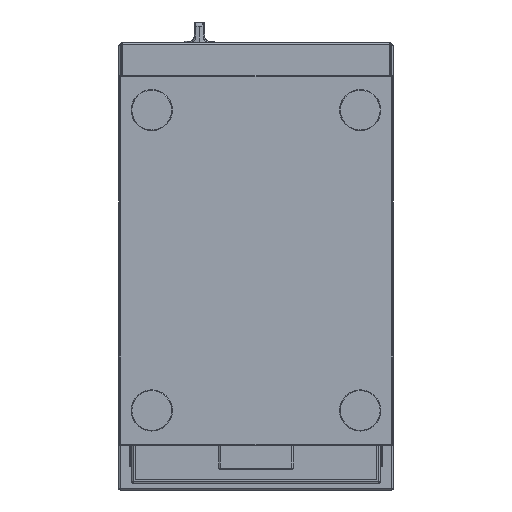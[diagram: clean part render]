
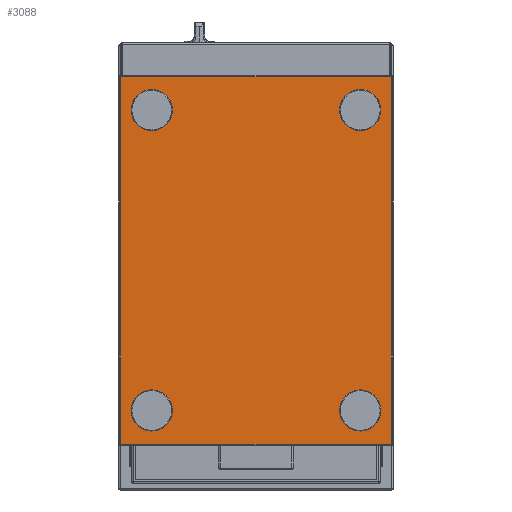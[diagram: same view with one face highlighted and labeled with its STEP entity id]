
A CAD part, front view. The second image highlights one B-rep face of the part: STEP entity #3088.
In plain terms, the highlighted planar face has unit normal (0, -1, 0).
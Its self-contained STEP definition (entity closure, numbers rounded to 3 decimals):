
#875=CARTESIAN_POINT('',(152.,-352.5,-219.));
#876=DIRECTION('',(0.,-1.,0.));
#877=DIRECTION('',(1.,0.,0.));
#878=AXIS2_PLACEMENT_3D('',#875,#876,#877);
#880=CARTESIAN_POINT('',(152.,-352.5,-219.));
#881=DIRECTION('',(0.,-1.,0.));
#882=DIRECTION('',(-1.,0.,0.));
#883=AXIS2_PLACEMENT_3D('',#880,#881,#882);
#885=CARTESIAN_POINT('',(152.,-352.5,219.));
#886=DIRECTION('',(0.,-1.,0.));
#887=DIRECTION('',(1.,0.,0.));
#888=AXIS2_PLACEMENT_3D('',#885,#886,#887);
#890=CARTESIAN_POINT('',(152.,-352.5,219.));
#891=DIRECTION('',(0.,-1.,0.));
#892=DIRECTION('',(-1.,0.,0.));
#893=AXIS2_PLACEMENT_3D('',#890,#891,#892);
#895=CARTESIAN_POINT('',(-152.,-352.5,-219.));
#896=DIRECTION('',(0.,1.,0.));
#897=DIRECTION('',(-1.,0.,0.));
#898=AXIS2_PLACEMENT_3D('',#895,#896,#897);
#900=CARTESIAN_POINT('',(-152.,-352.5,-219.));
#901=DIRECTION('',(0.,1.,0.));
#902=DIRECTION('',(1.,0.,0.));
#903=AXIS2_PLACEMENT_3D('',#900,#901,#902);
#905=CARTESIAN_POINT('',(-152.,-352.5,219.));
#906=DIRECTION('',(0.,1.,0.));
#907=DIRECTION('',(-1.,0.,0.));
#908=AXIS2_PLACEMENT_3D('',#905,#906,#907);
#910=CARTESIAN_POINT('',(-152.,-352.5,219.));
#911=DIRECTION('',(0.,1.,0.));
#912=DIRECTION('',(1.,0.,0.));
#913=AXIS2_PLACEMENT_3D('',#910,#911,#912);
#915=DIRECTION('',(0.,0.,-1.));
#916=VECTOR('',#915,536.4);
#917=CARTESIAN_POINT('',(197.2,-352.5,268.2));
#918=LINE('',#917,#916);
#919=DIRECTION('',(-1.,0.,0.));
#920=VECTOR('',#919,394.4);
#921=CARTESIAN_POINT('',(197.2,-352.5,-268.2));
#922=LINE('',#921,#920);
#923=DIRECTION('',(0.,0.,1.));
#924=VECTOR('',#923,536.4);
#925=CARTESIAN_POINT('',(-197.2,-352.5,-268.2));
#926=LINE('',#925,#924);
#927=DIRECTION('',(-1.,0.,0.));
#928=VECTOR('',#927,394.4);
#929=CARTESIAN_POINT('',(197.2,-352.5,268.2));
#930=LINE('',#929,#928);
#1453=CARTESIAN_POINT('',(182.,-352.5,-219.));
#1454=CARTESIAN_POINT('',(122.,-352.5,-219.));
#1455=VERTEX_POINT('',#1453);
#1456=VERTEX_POINT('',#1454);
#1485=CARTESIAN_POINT('',(197.2,-352.5,268.2));
#1486=CARTESIAN_POINT('',(197.2,-352.5,-268.2));
#1487=VERTEX_POINT('',#1485);
#1488=VERTEX_POINT('',#1486);
#1491=CARTESIAN_POINT('',(-197.2,-352.5,268.2));
#1492=VERTEX_POINT('',#1491);
#1495=CARTESIAN_POINT('',(-197.2,-352.5,-268.2));
#1496=VERTEX_POINT('',#1495);
#1553=CARTESIAN_POINT('',(182.,-352.5,219.));
#1554=CARTESIAN_POINT('',(122.,-352.5,219.));
#1555=VERTEX_POINT('',#1553);
#1556=VERTEX_POINT('',#1554);
#1561=CARTESIAN_POINT('',(-182.,-352.5,-219.));
#1562=VERTEX_POINT('',#1561);
#1563=CARTESIAN_POINT('',(-122.,-352.5,-219.));
#1564=VERTEX_POINT('',#1563);
#1569=CARTESIAN_POINT('',(-182.,-352.5,219.));
#1570=VERTEX_POINT('',#1569);
#1571=CARTESIAN_POINT('',(-122.,-352.5,219.));
#1572=VERTEX_POINT('',#1571);
#3051=CARTESIAN_POINT('',(-199.,-352.5,270.));
#3052=DIRECTION('',(0.,-1.,0.));
#3053=DIRECTION('',(0.,0.,-1.));
#3054=AXIS2_PLACEMENT_3D('',#3051,#3052,#3053);
#3055=PLANE('',#3054);
#3057=ORIENTED_EDGE('',*,*,#3056,.T.);
#3059=ORIENTED_EDGE('',*,*,#3058,.T.);
#3060=ORIENTED_EDGE('',*,*,#3019,.T.);
#3061=ORIENTED_EDGE('',*,*,#3042,.F.);
#3062=EDGE_LOOP('',(#3057,#3059,#3060,#3061));
#3063=FACE_OUTER_BOUND('',#3062,.F.);
#3065=ORIENTED_EDGE('',*,*,#3064,.T.);
#3067=ORIENTED_EDGE('',*,*,#3066,.T.);
#3068=EDGE_LOOP('',(#3065,#3067));
#3069=FACE_BOUND('',#3068,.F.);
#3071=ORIENTED_EDGE('',*,*,#3070,.F.);
#3073=ORIENTED_EDGE('',*,*,#3072,.F.);
#3074=EDGE_LOOP('',(#3071,#3073));
#3075=FACE_BOUND('',#3074,.F.);
#3077=ORIENTED_EDGE('',*,*,#3076,.F.);
#3079=ORIENTED_EDGE('',*,*,#3078,.F.);
#3080=EDGE_LOOP('',(#3077,#3079));
#3081=FACE_BOUND('',#3080,.F.);
#3083=ORIENTED_EDGE('',*,*,#3082,.T.);
#3085=ORIENTED_EDGE('',*,*,#3084,.T.);
#3086=EDGE_LOOP('',(#3083,#3085));
#3087=FACE_BOUND('',#3086,.F.);
#879=CIRCLE('',#878,30.);
#884=CIRCLE('',#883,30.);
#889=CIRCLE('',#888,30.);
#894=CIRCLE('',#893,30.);
#899=CIRCLE('',#898,30.);
#904=CIRCLE('',#903,30.);
#909=CIRCLE('',#908,30.);
#914=CIRCLE('',#913,30.);
#3019=EDGE_CURVE('',#1496,#1492,#926,.T.);
#3042=EDGE_CURVE('',#1487,#1492,#930,.T.);
#3056=EDGE_CURVE('',#1487,#1488,#918,.T.);
#3058=EDGE_CURVE('',#1488,#1496,#922,.T.);
#3064=EDGE_CURVE('',#1555,#1556,#889,.T.);
#3066=EDGE_CURVE('',#1556,#1555,#894,.T.);
#3070=EDGE_CURVE('',#1562,#1564,#899,.T.);
#3072=EDGE_CURVE('',#1564,#1562,#904,.T.);
#3076=EDGE_CURVE('',#1570,#1572,#909,.T.);
#3078=EDGE_CURVE('',#1572,#1570,#914,.T.);
#3082=EDGE_CURVE('',#1455,#1456,#879,.T.);
#3084=EDGE_CURVE('',#1456,#1455,#884,.T.);
#3088=ADVANCED_FACE('',(#3063,#3069,#3075,#3081,#3087),#3055,.T.);
